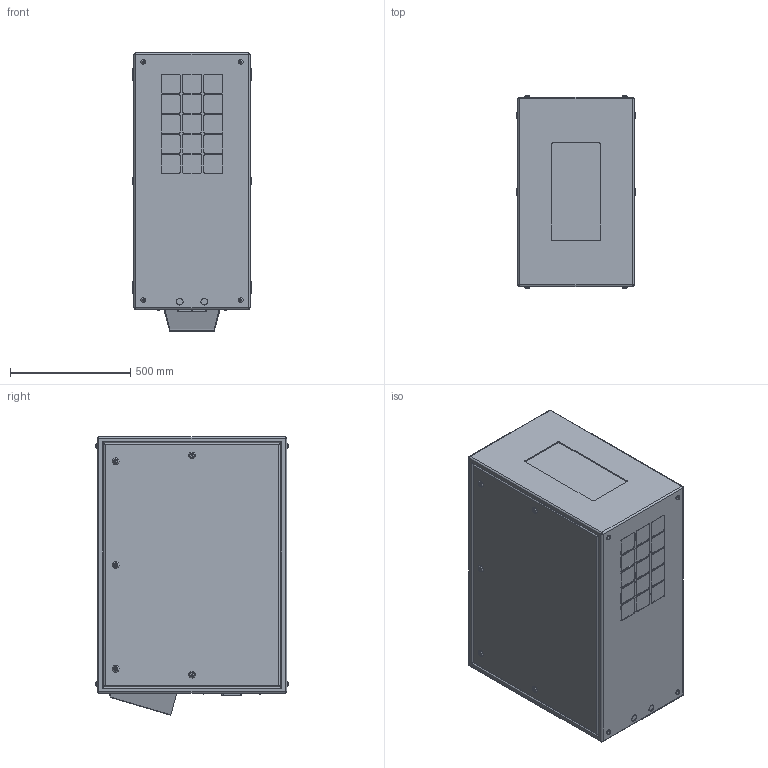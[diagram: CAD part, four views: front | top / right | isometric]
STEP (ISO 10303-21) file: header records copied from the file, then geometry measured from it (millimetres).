
FILE_DESCRIPTION (( 'STEP AP214' ), '1' );
FILE_NAME ('Blizzard 52.150.Px.xx R06.STEP', '2020-04-29T00:25:55', ( '' ), ( '' ), 'SwSTEP 2.0', 'SolidWorks 2018', '' );
FILE_SCHEMA (( 'AUTOMOTIVE_DESIGN' ));
Length unit declared in the file: inch
Products named in the file (1): Blizzard 52.150.Px.xx R06
Bounding box: 495.3 x 803.66 x 1157.99 mm (x, y, z)
Volume: 406925439.8 mm3; surface area: 3875865.2 mm2
Topology: 1 solids, 5 shells, 587 faces, 1375 edges, 880 vertices
Faces by surface type: plane 316, cylinder 213, torus 48, sphere 10
Entity records: 20582 total; most frequent: DIRECTION 3009, CARTESIAN_POINT 2895, ORIENTED_EDGE 2734, EDGE_CURVE 1367, AXIS2_PLACEMENT_3D 1074, VERTEX_POINT 880, LINE 861, VECTOR 861
